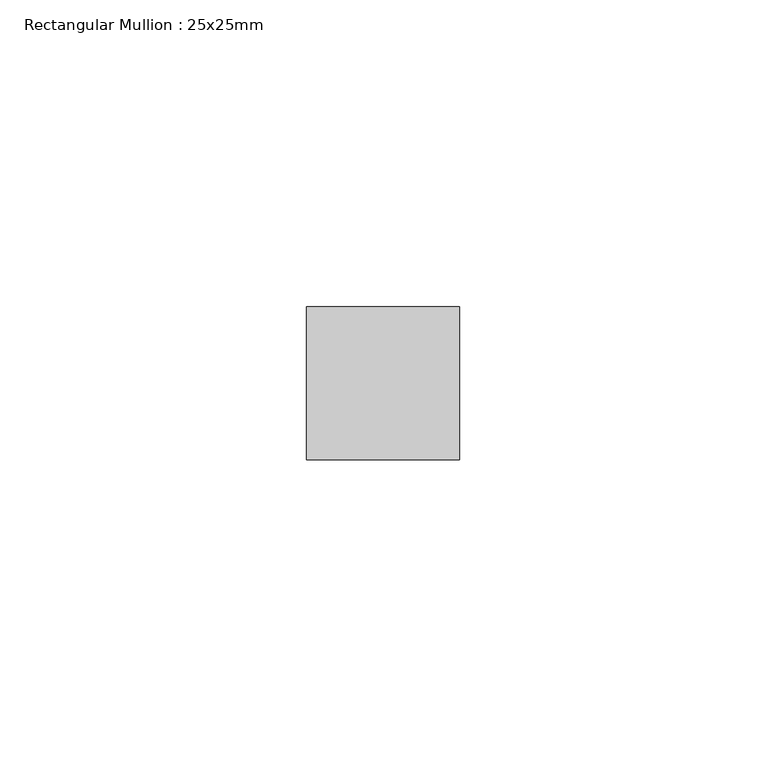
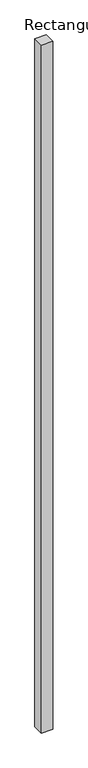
"""IFC4 building model written with IfcOpenShell, lengths in millimetres: member geometry, Rectangular Mullion : 25x25mm."""

from ifc_helpers import new_model, si_unit, frame, origin, place, context, project, spatial, polyline, outline, extrude, source, transform, mapped, element, save


def rectangular_mullion_25x25mm_c524c6a9(model_context):
    return source(origin(), model_context, "Body", "SweptSolid", [
        extrude(outline(polyline([(12.5, 24.5), (12.5, -0.5), (-12.5, -0.5), (-12.5, 24.5), (12.5, 24.5)])), frame((0.0, 0.0, -1606.9444444), z_axis=(0.0, 0.0, 1.0), x_axis=(1.0, 0.0, 0.0)), (0.0, 0.0, 1.0), 1606.9444444),
    ])


if __name__ == "__main__":
    model = new_model("IFC4")
    model_context = context("Model", 3, world=origin())
    ifc_project = project(units=[si_unit("LENGTHUNIT", "METRE", prefix="MILLI")], contexts=[model_context])
    site = spatial("IfcSite", under=ifc_project)
    building = spatial("IfcBuilding", under=site)
    placement = place(None, origin())
    rectangular_mullion_25x25mm_shape = rectangular_mullion_25x25mm_c524c6a9(model_context)
    element("IfcMember", 1, ObjectType="Rectangular Mullion : 25x25mm", at=placement, inside=building, context=model_context, shape_type="MappedRepresentation", body=[
        mapped(rectangular_mullion_25x25mm_shape, transform((0.0, 0.0, 0.0), x_axis=(1.0, 0.0, 0.0), y_axis=(0.0, 1.0, 0.0), z_axis=(0.0, 0.0, 1.0))),
    ])
    save(model, "model.ifc")
